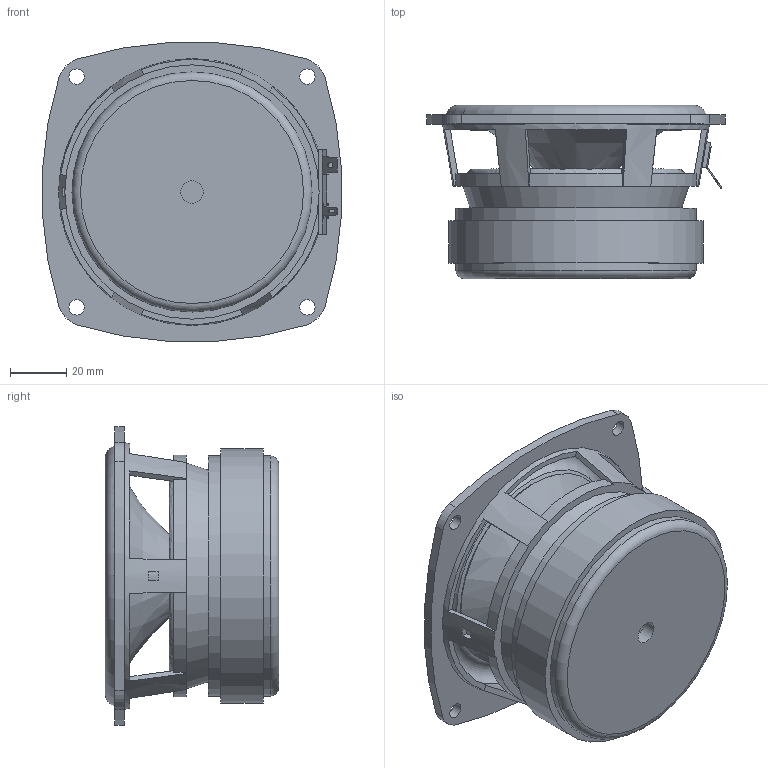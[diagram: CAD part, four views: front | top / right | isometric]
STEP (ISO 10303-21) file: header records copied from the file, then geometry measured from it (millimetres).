
FILE_DESCRIPTION(/* description */ (''),/* implementation_level */ '2;1');
FILE_NAME(/* name */ 'CF120-4.step',/* time_stamp */ '2025-07-08T09:47:46-04:00',/* author */ (''),/* organization */ (''),/* preprocessor_version */ 'ST-DEVELOPER v20.1',/* originating_system */ 'Autodesk Translation Framework v14.10.0.0',/* authorisation */ '');
FILE_SCHEMA (('AUTOMOTIVE_DESIGN { 1 0 10303 214 3 1 1 }'));
Length unit declared in the file: millimetre
Products named in the file (1): 4INCH-WOOFER
Bounding box: 105.81 x 61.39 x 105.81 mm (x, y, z)
Volume: 197515.2 mm3; surface area: 68780.8 mm2
Topology: 2 solids, 3 shells, 142 faces, 390 edges, 257 vertices
Faces by surface type: plane 84, cylinder 32, cone 10, bspline 9, torus 5, sphere 2
Full cylindrical faces by diameter (mm): 5.5 x4, 8 x1, 82.457 x1, 85 x2, 90 x1, 99.5 x1, 101.4 x1
Entity records: 5817 total; most frequent: CARTESIAN_POINT 2016, DIRECTION 809, ORIENTED_EDGE 776, EDGE_CURVE 388, AXIS2_PLACEMENT_3D 293, VERTEX_POINT 257, LINE 223, VECTOR 223
